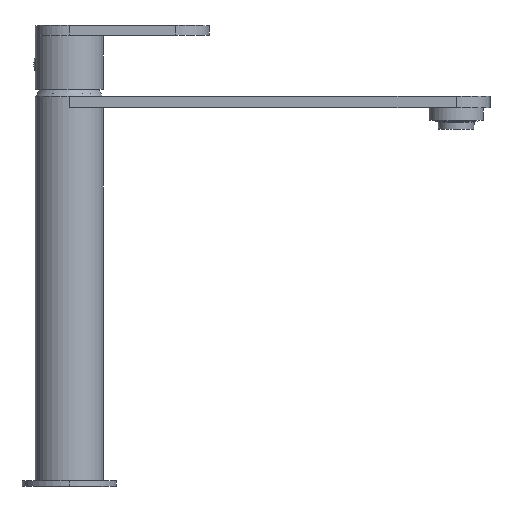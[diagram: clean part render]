
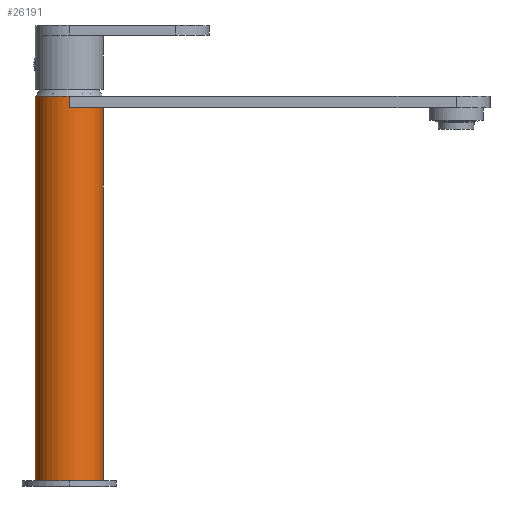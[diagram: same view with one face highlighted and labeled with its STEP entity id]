
A CAD part, top view. The second image highlights one B-rep face of the part: STEP entity #26191.
In plain terms, the highlighted cylindrical face has radius 17.5 mm (diameter 35 mm), a partial arc.
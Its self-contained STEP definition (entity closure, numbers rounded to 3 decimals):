
#3289=CARTESIAN_POINT('',(0.,55.7,0.));
#3290=DIRECTION('',(0.,1.,0.));
#3291=DIRECTION('',(0.,0.,-1.));
#3292=AXIS2_PLACEMENT_3D('',#3289,#3290,#3291);
#3317=CARTESIAN_POINT('',(0.,-143.,0.));
#3318=DIRECTION('',(0.,-1.,0.));
#3319=DIRECTION('',(1.,0.,0.));
#3320=AXIS2_PLACEMENT_3D('',#3317,#3318,#3319);
#3322=DIRECTION('',(0.,1.,0.));
#3323=VECTOR('',#3322,192.7);
#3324=CARTESIAN_POINT('',(-17.5,-143.,0.));
#3325=LINE('',#3324,#3323);
#3326=CARTESIAN_POINT('',(0.,49.7,0.));
#3327=DIRECTION('',(0.,1.,0.));
#3328=DIRECTION('',(0.,0.,1.));
#3329=AXIS2_PLACEMENT_3D('',#3326,#3327,#3328);
#3331=DIRECTION('',(0.,-1.,0.));
#3332=VECTOR('',#3331,192.7);
#3333=CARTESIAN_POINT('',(17.5,49.7,0.));
#3334=LINE('',#3333,#3332);
#14532=CARTESIAN_POINT('',(0.,49.7,0.));
#14533=DIRECTION('',(0.,1.,0.));
#14534=DIRECTION('',(0.,0.,-1.));
#14535=AXIS2_PLACEMENT_3D('',#14532,#14533,#14534);
#14560=DIRECTION('',(0.,1.,0.));
#14561=VECTOR('',#14560,6.);
#14562=CARTESIAN_POINT('',(0.,49.7,17.5));
#14563=LINE('',#14562,#14561);
#14568=DIRECTION('',(0.,-1.,0.));
#14569=VECTOR('',#14568,6.);
#14570=CARTESIAN_POINT('',(0.,55.7,-17.5));
#14571=LINE('',#14570,#14569);
#19747=CARTESIAN_POINT('',(0.,55.7,-17.5));
#19748=CARTESIAN_POINT('',(0.,55.7,17.5));
#19749=VERTEX_POINT('',#19747);
#19750=VERTEX_POINT('',#19748);
#19783=CARTESIAN_POINT('',(0.,49.7,-17.5));
#19784=CARTESIAN_POINT('',(-17.5,49.7,0.));
#19785=VERTEX_POINT('',#19783);
#19786=VERTEX_POINT('',#19784);
#19787=CARTESIAN_POINT('',(0.,49.7,17.5));
#19788=CARTESIAN_POINT('',(17.5,49.7,0.));
#19789=VERTEX_POINT('',#19787);
#19790=VERTEX_POINT('',#19788);
#22469=CARTESIAN_POINT('',(17.5,-143.,0.));
#22470=CARTESIAN_POINT('',(-17.5,-143.,0.));
#22471=VERTEX_POINT('',#22469);
#22472=VERTEX_POINT('',#22470);
#26169=CARTESIAN_POINT('',(0.,-2.485,0.));
#26170=DIRECTION('',(0.,1.,0.));
#26171=DIRECTION('',(1.,0.,0.));
#26172=AXIS2_PLACEMENT_3D('',#26169,#26170,#26171);
#26173=CYLINDRICAL_SURFACE('',#26172,17.5);
#26175=ORIENTED_EDGE('',*,*,#26174,.T.);
#26177=ORIENTED_EDGE('',*,*,#26176,.T.);
#26179=ORIENTED_EDGE('',*,*,#26178,.F.);
#26181=ORIENTED_EDGE('',*,*,#26180,.F.);
#26182=ORIENTED_EDGE('',*,*,#26153,.T.);
#26184=ORIENTED_EDGE('',*,*,#26183,.F.);
#26186=ORIENTED_EDGE('',*,*,#26185,.T.);
#26188=ORIENTED_EDGE('',*,*,#26187,.T.);
#26189=EDGE_LOOP('',(#26175,#26177,#26179,#26181,#26182,#26184,#26186,#26188));
#26190=FACE_OUTER_BOUND('',#26189,.F.);
#26191=ADVANCED_FACE('',(#26190),#26173,.T.);
#3293=CIRCLE('',#3292,17.5);
#3321=CIRCLE('',#3320,17.5);
#3330=CIRCLE('',#3329,17.5);
#14536=CIRCLE('',#14535,17.5);
#26153=EDGE_CURVE('',#19749,#19750,#3293,.T.);
#26174=EDGE_CURVE('',#22471,#22472,#3321,.T.);
#26176=EDGE_CURVE('',#22472,#19786,#3325,.T.);
#26178=EDGE_CURVE('',#19785,#19786,#14536,.T.);
#26180=EDGE_CURVE('',#19749,#19785,#14571,.T.);
#26183=EDGE_CURVE('',#19789,#19750,#14563,.T.);
#26185=EDGE_CURVE('',#19789,#19790,#3330,.T.);
#26187=EDGE_CURVE('',#19790,#22471,#3334,.T.);
